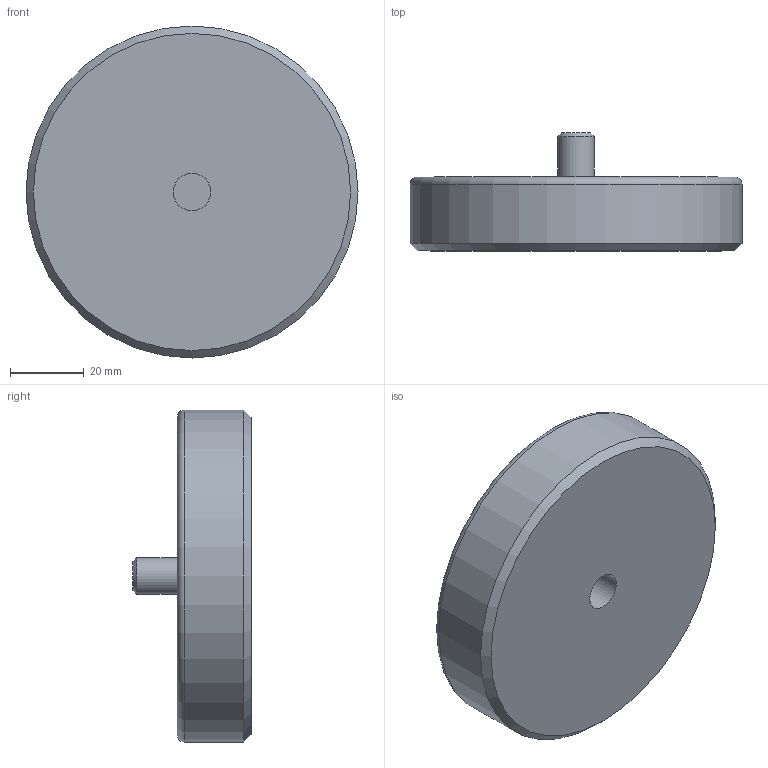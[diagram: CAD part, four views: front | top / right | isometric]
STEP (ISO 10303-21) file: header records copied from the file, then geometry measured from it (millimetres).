
FILE_DESCRIPTION(('FreeCAD Model'),'2;1');
FILE_NAME('Open CASCADE Shape Model','2025-12-23T20:05:20',(''),(''), 'Open CASCADE STEP processor 7.8','FreeCAD','Unknown');
FILE_SCHEMA(('AUTOMOTIVE_DESIGN { 1 0 10303 214 1 1 1 1 }'));
Length unit declared in the file: millimetre
Products named in the file (1): DistanzScheibe
Bounding box: 90 x 32 x 90 mm (x, y, z)
Volume: 126302.6 mm3; surface area: 18571.2 mm2
Topology: 1 solids, 1 shells, 10 faces, 15 edges, 9 vertices
Faces by surface type: plane 4, cylinder 3, cone 2, torus 1
Full cylindrical faces by diameter (mm): 10 x1, 10.2 x1, 90 x1
Entity records: 249 total; most frequent: DIRECTION 47, CARTESIAN_POINT 35, ORIENTED_EDGE 30, AXIS2_PLACEMENT_3D 21, EDGE_CURVE 15, FACE_BOUND 12, EDGE_LOOP 12, ADVANCED_FACE 10
